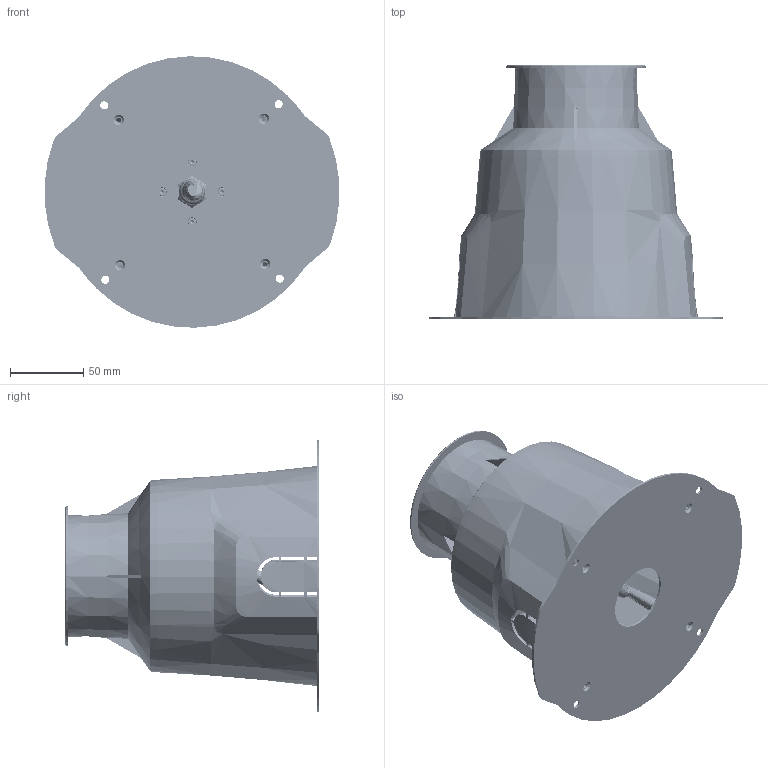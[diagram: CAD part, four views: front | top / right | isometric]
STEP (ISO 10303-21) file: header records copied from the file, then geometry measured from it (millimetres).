
FILE_DESCRIPTION((''),'2;1');
FILE_NAME('00-2_0001_ASM','2024-08-30T14:26:27',('C029'),(''),'CREO PARAMETRIC BY PTC INC, 2021063','CREO PARAMETRIC BY PTC INC, 2021063','');
FILE_SCHEMA(('CONFIG_CONTROL_DESIGN'));
Length unit declared in the file: millimetre
Products named in the file (46): 181-_W_I_______3D_ANY_ASM_2_ASM_ASM; 181-2CF_3D_ASM_3_ASM_1_ASM; HOUSING-90-1_64_1_2_1_1; FACE-COVER_7_1_1_1_1; ZHUZI_23_1_1_1_1; YAP_22_1_1_1_1; YUANPAN-HEATSINK_18_1_1_1_1; MSBR-9_1_12_1_1_1_1; MSBR-8_1_1_1_1_1_1; MSBR-7_1_1_1_1_1_1; 2X_ASM_1_1_ASM_1_1_ASM_1_ASM; GLASS-FACE_6_1_1_1_1; BACK-COVER-N-1_37_1_1_1_1; PAD_1_1_1_1_1; FANGUANGSAI-1_1_1_1_1_1; FANGSHUISAI_1_1_1_1_1; LINE_3_1_1_1_1; PG9_ASM_5_1_ASM_1_1_ASM_1_ASM; HEXAGON_SOCKET_HEAD_CAP_SCREW_2; GAIMAO_10_1_1_1_1; HEX_SOCKET_SET_SCREWS_WITH_CO_2; BACK-RUBBER_16_1_1_1_1; DRIVER-BOX-1_19_1_1_1_1; KEDUPAN_10_1_1_1_1; SAIZI_9_1_1_1_1; LUOMU_17_1_1_1_1; T-H_18_1_1_1_1; RUBBER-001_6_1_1_1_1; GB-M3X5__2_1_1_1_1; CROSS_RECESSED_COUNTERSUNK_HE_2; SCREW-M3-6_3_1_1_1_1; RUBBER_61_1_1_1_1; PG9-NUT_3_1_1_1_1; 2CF-KP_4_1_1_1_1; B-SCREW-M4_5_1_1_1_1; 2CF_ASM_131_1_ASM_1_1_ASM_1_ASM; ASM0001_ASM_3_1_ASM_1_ASM; ASM0003_ASM_1_ASM; 181_-2CF__ASM_1_ASM; XB2CFR0157_181_0_ASM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
Assembly tree (56 placements, depth 8):
  00-2_0001_ASM
    XB2CFR0157_181_0_ASM
      181_-2CF__ASM_1_ASM
        181-2CF_3D_ASM_3_ASM_1_ASM
          181-_W_I_______3D_ANY_ASM_2_ASM_ASM
        ASM0003_ASM_1_ASM
          ASM0001_ASM_3_1_ASM_1_ASM
            2CF_ASM_131_1_ASM_1_1_ASM_1_ASM
              HOUSING-90-1_64_1_2_1_1
              FACE-COVER_7_1_1_1_1
              ZHUZI_23_1_1_1_1
              YAP_22_1_1_1_1
              YUANPAN-HEATSINK_18_1_1_1_1
              2X_ASM_1_1_ASM_1_1_ASM_1_ASM
                MSBR-9_1_12_1_1_1_1
                MSBR-8_1_1_1_1_1_1
                MSBR-7_1_1_1_1_1_1
              GLASS-FACE_6_1_1_1_1
              BACK-COVER-N-1_37_1_1_1_1
              PG9_ASM_5_1_ASM_1_1_ASM_1_ASM
                PAD_1_1_1_1_1
                FANGUANGSAI-1_1_1_1_1_1
                FANGSHUISAI_1_1_1_1_1
                LINE_3_1_1_1_1
              HEXAGON_SOCKET_HEAD_CAP_SCREW_2  x4
              GAIMAO_10_1_1_1_1
              HEX_SOCKET_SET_SCREWS_WITH_CO_2  x2
              BACK-RUBBER_16_1_1_1_1
              DRIVER-BOX-1_19_1_1_1_1
              KEDUPAN_10_1_1_1_1
              SAIZI_9_1_1_1_1
              LUOMU_17_1_1_1_1
              T-H_18_1_1_1_1  x2
              RUBBER-001_6_1_1_1_1
              GB-M3X5__2_1_1_1_1  x2
              CROSS_RECESSED_COUNTERSUNK_HE_2  x2
              SCREW-M3-6_3_1_1_1_1  x2
              RUBBER_61_1_1_1_1
              PG9-NUT_3_1_1_1_1
              2CF-KP_4_1_1_1_1
              B-SCREW-M4_5_1_1_1_1  x4
    B08000_ASM
      00-2_0001_ASM_15_ASM
        2CA-2019-12-270001_4
        2EE_A-5_5_9
        9_-2CF-0001_1
Bounding box: 200.65 x 173 x 184.97 mm (x, y, z)
Volume: 426875.8 mm3; surface area: 355413.2 mm2
Topology: 44 solids, 46 shells, 4704 faces, 12713 edges, 8255 vertices
Faces by surface type: plane 2465, cylinder 1065, cone 803, bspline 186, torus 152, sphere 32, revolution 1
Entity records: 165560 total; most frequent: CARTESIAN_POINT 59269, ORIENTED_EDGE 22830, DIRECTION 21173, EDGE_CURVE 11419, VERTEX_POINT 7512, AXIS2_PLACEMENT_3D 7244, VECTOR 6684, LINE 6684
